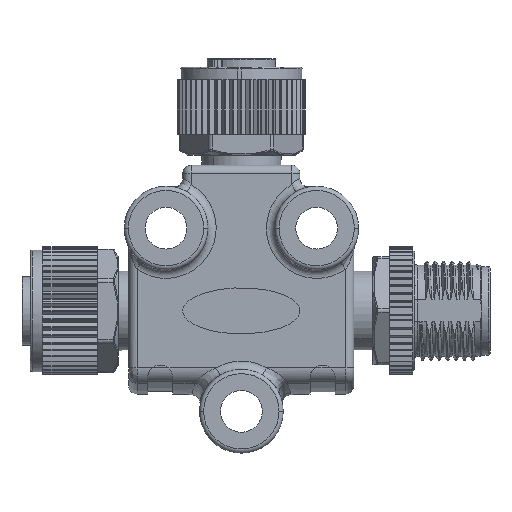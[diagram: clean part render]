
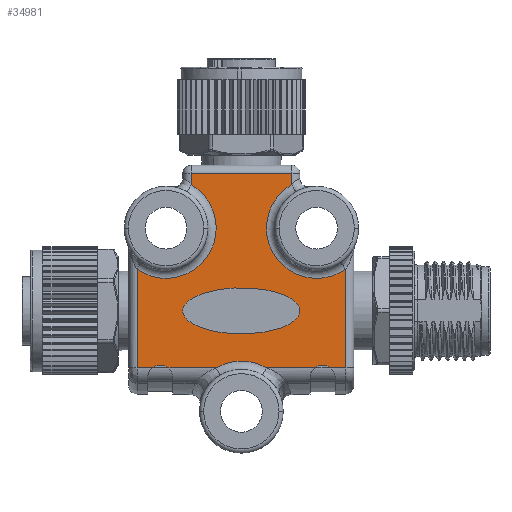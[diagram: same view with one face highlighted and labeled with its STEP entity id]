
A CAD part, front view. The second image highlights one B-rep face of the part: STEP entity #34981.
In plain terms, the highlighted planar face has unit normal (0, -1, 0).
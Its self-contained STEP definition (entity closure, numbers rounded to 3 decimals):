
#5995=CARTESIAN_POINT('',(12.45,-8.45,4.966));
#6086=CARTESIAN_POINT('',(8.762,-8.45,-6.805));
#6088=CARTESIAN_POINT('',(10.638,-8.45,-6.805));
#7022=CARTESIAN_POINT('',(9.,-8.45,9.875));
#7023=DIRECTION('',(0.,1.,0.));
#7024=DIRECTION('',(0.575,0.,-0.818));
#7025=AXIS2_PLACEMENT_3D('',#7022,#7023,#7024);
#7032=CARTESIAN_POINT('',(0.,-8.45,-12.));
#7033=DIRECTION('',(0.,1.,0.));
#7034=DIRECTION('',(-0.5,0.,0.866));
#7035=AXIS2_PLACEMENT_3D('',#7032,#7033,#7034);
#7037=CARTESIAN_POINT('',(-9.7,-8.45,-7.975));
#7038=DIRECTION('',(0.,-1.,0.));
#7039=DIRECTION('',(0.626,0.,0.78));
#7040=AXIS2_PLACEMENT_3D('',#7037,#7038,#7039);
#7042=DIRECTION('',(0.,0.,-1.));
#7043=VECTOR('',#7042,11.771);
#7044=CARTESIAN_POINT('',(-12.45,-8.45,4.966));
#7045=LINE('',#7044,#7043);
#7046=DIRECTION('',(0.,0.,-1.));
#7047=VECTOR('',#7046,1.329);
#7048=CARTESIAN_POINT('',(-6.,-8.45,16.4));
#7049=LINE('',#7048,#7047);
#7050=DIRECTION('',(-1.,0.,0.));
#7051=VECTOR('',#7050,12.);
#7052=CARTESIAN_POINT('',(6.,-8.45,16.4));
#7053=LINE('',#7052,#7051);
#7054=DIRECTION('',(0.,0.,1.));
#7055=VECTOR('',#7054,1.329);
#7056=CARTESIAN_POINT('',(6.,-8.45,15.071));
#7057=LINE('',#7056,#7055);
#7058=DIRECTION('',(0.,0.,1.));
#7059=VECTOR('',#7058,11.771);
#7060=CARTESIAN_POINT('',(12.45,-8.45,-6.805));
#7061=LINE('',#7060,#7059);
#7062=DIRECTION('',(-1.,0.,0.));
#7063=VECTOR('',#7062,1.812);
#7064=CARTESIAN_POINT('',(12.45,-8.45,-6.805));
#7065=LINE('',#7064,#7063);
#7066=CARTESIAN_POINT('',(9.7,-8.45,-7.975));
#7067=DIRECTION('',(0.,-1.,0.));
#7068=DIRECTION('',(0.626,0.,0.78));
#7069=AXIS2_PLACEMENT_3D('',#7066,#7067,#7068);
#7071=CARTESIAN_POINT('',(-7.,-8.45,0.));
#7072=CARTESIAN_POINT('',(-7.,-8.45,-0.162));
#7073=CARTESIAN_POINT('',(-6.927,-8.45,-0.498));
#7074=CARTESIAN_POINT('',(-6.555,-8.45,-1.015));
#7075=CARTESIAN_POINT('',(-5.903,-8.45,-1.514));
#7076=CARTESIAN_POINT('',(-4.986,-8.45,-1.959));
#7077=CARTESIAN_POINT('',(-4.042,-8.45,-2.259));
#7078=CARTESIAN_POINT('',(-3.219,-8.45,-2.447));
#7079=CARTESIAN_POINT('',(-2.579,-8.45,-2.561));
#7080=CARTESIAN_POINT('',(-1.926,-8.45,-2.648));
#7081=CARTESIAN_POINT('',(-1.381,-8.45,-2.698));
#7082=CARTESIAN_POINT('',(-0.949,-8.45,-2.726));
#7083=CARTESIAN_POINT('',(-0.628,-8.45,-2.74));
#7084=CARTESIAN_POINT('',(-0.364,-8.45,-2.747));
#7085=CARTESIAN_POINT('',(-0.155,-8.45,-2.75));
#7086=CARTESIAN_POINT('',(0.,-8.45,-2.75));
#7087=CARTESIAN_POINT('',(0.155,-8.45,-2.75));
#7088=CARTESIAN_POINT('',(0.364,-8.45,-2.747));
#7089=CARTESIAN_POINT('',(0.628,-8.45,-2.74));
#7090=CARTESIAN_POINT('',(0.949,-8.45,-2.726));
#7091=CARTESIAN_POINT('',(1.381,-8.45,-2.698));
#7092=CARTESIAN_POINT('',(1.926,-8.45,-2.648));
#7093=CARTESIAN_POINT('',(2.579,-8.45,-2.561));
#7094=CARTESIAN_POINT('',(3.219,-8.45,-2.447));
#7095=CARTESIAN_POINT('',(4.042,-8.45,-2.259));
#7096=CARTESIAN_POINT('',(4.986,-8.45,-1.959));
#7097=CARTESIAN_POINT('',(5.903,-8.45,-1.514));
#7098=CARTESIAN_POINT('',(6.555,-8.45,-1.015));
#7099=CARTESIAN_POINT('',(6.927,-8.45,-0.498));
#7100=CARTESIAN_POINT('',(7.,-8.45,-0.162));
#7101=CARTESIAN_POINT('',(7.,-8.45,0.));
#7103=CARTESIAN_POINT('',(7.,-8.45,0.));
#7104=CARTESIAN_POINT('',(7.,-8.45,0.162));
#7105=CARTESIAN_POINT('',(6.927,-8.45,0.498));
#7106=CARTESIAN_POINT('',(6.555,-8.45,1.015));
#7107=CARTESIAN_POINT('',(5.903,-8.45,1.514));
#7108=CARTESIAN_POINT('',(4.986,-8.45,1.959));
#7109=CARTESIAN_POINT('',(4.042,-8.45,2.259));
#7110=CARTESIAN_POINT('',(3.219,-8.45,2.447));
#7111=CARTESIAN_POINT('',(2.579,-8.45,2.561));
#7112=CARTESIAN_POINT('',(1.926,-8.45,2.648));
#7113=CARTESIAN_POINT('',(1.381,-8.45,2.698));
#7114=CARTESIAN_POINT('',(0.949,-8.45,2.726));
#7115=CARTESIAN_POINT('',(0.628,-8.45,2.74));
#7116=CARTESIAN_POINT('',(0.364,-8.45,2.747));
#7117=CARTESIAN_POINT('',(0.155,-8.45,2.75));
#7118=CARTESIAN_POINT('',(0.,-8.45,2.75));
#7119=CARTESIAN_POINT('',(-0.155,-8.45,2.75));
#7120=CARTESIAN_POINT('',(-0.364,-8.45,2.747));
#7121=CARTESIAN_POINT('',(-0.628,-8.45,2.74));
#7122=CARTESIAN_POINT('',(-0.949,-8.45,2.726));
#7123=CARTESIAN_POINT('',(-1.381,-8.45,2.698));
#7124=CARTESIAN_POINT('',(-1.926,-8.45,2.648));
#7125=CARTESIAN_POINT('',(-2.579,-8.45,2.561));
#7126=CARTESIAN_POINT('',(-3.219,-8.45,2.447));
#7127=CARTESIAN_POINT('',(-4.042,-8.45,2.259));
#7128=CARTESIAN_POINT('',(-4.986,-8.45,1.959));
#7129=CARTESIAN_POINT('',(-5.903,-8.45,1.514));
#7130=CARTESIAN_POINT('',(-6.555,-8.45,1.015));
#7131=CARTESIAN_POINT('',(-6.927,-8.45,0.498));
#7132=CARTESIAN_POINT('',(-7.,-8.45,0.162));
#7133=CARTESIAN_POINT('',(-7.,-8.45,0.));
#7171=DIRECTION('',(1.,0.,0.));
#7172=VECTOR('',#7171,5.76);
#7173=CARTESIAN_POINT('',(3.001,-8.45,-6.805));
#7174=LINE('',#7173,#7172);
#7248=CARTESIAN_POINT('',(-3.001,-8.45,-6.805));
#7255=DIRECTION('',(1.,0.,0.));
#7256=VECTOR('',#7255,5.76);
#7257=CARTESIAN_POINT('',(-8.762,-8.45,-6.805));
#7258=LINE('',#7257,#7256);
#7465=CARTESIAN_POINT('',(-10.638,-8.45,-6.805));
#7467=CARTESIAN_POINT('',(-8.762,-8.45,-6.805));
#7557=DIRECTION('',(1.,0.,0.));
#7558=VECTOR('',#7557,1.812);
#7559=CARTESIAN_POINT('',(-12.45,-8.45,-6.805));
#7560=LINE('',#7559,#7558);
#7848=CARTESIAN_POINT('',(6.,-8.45,15.071));
#7865=CARTESIAN_POINT('',(-6.,-8.45,15.071));
#7896=CARTESIAN_POINT('',(-9.,-8.45,9.875));
#7897=DIRECTION('',(0.,1.,0.));
#7898=DIRECTION('',(0.5,0.,0.866));
#7899=AXIS2_PLACEMENT_3D('',#7896,#7897,#7898);
#7940=CARTESIAN_POINT('',(-12.45,-8.45,4.966));
#22671=CARTESIAN_POINT('',(-12.45,-8.45,-6.805));
#22672=VERTEX_POINT('',#22671);
#22676=CARTESIAN_POINT('',(12.45,-8.45,-6.805));
#22678=VERTEX_POINT('',#22676);
#22695=CARTESIAN_POINT('',(6.,-8.45,16.4));
#22696=CARTESIAN_POINT('',(-6.,-8.45,16.4));
#22697=VERTEX_POINT('',#22695);
#22698=VERTEX_POINT('',#22696);
#22752=VERTEX_POINT('',#6086);
#22753=VERTEX_POINT('',#6088);
#22793=VERTEX_POINT('',#7467);
#22794=VERTEX_POINT('',#7465);
#22800=VERTEX_POINT('',#7248);
#22803=CARTESIAN_POINT('',(3.001,-8.45,-6.805));
#22804=VERTEX_POINT('',#22803);
#22832=VERTEX_POINT('',#7940);
#22838=VERTEX_POINT('',#7865);
#22842=VERTEX_POINT('',#7848);
#22849=VERTEX_POINT('',#5995);
#22915=VERTEX_POINT('',#7071);
#22916=VERTEX_POINT('',#7101);
#34944=CARTESIAN_POINT('',(0.,-8.45,0.));
#34945=DIRECTION('',(0.,1.,0.));
#34946=DIRECTION('',(1.,0.,0.));
#34947=AXIS2_PLACEMENT_3D('',#34944,#34945,#34946);
#34948=PLANE('',#34947);
#34950=ORIENTED_EDGE('',*,*,#34949,.F.);
#34952=ORIENTED_EDGE('',*,*,#34951,.F.);
#34954=ORIENTED_EDGE('',*,*,#34953,.T.);
#34956=ORIENTED_EDGE('',*,*,#34955,.F.);
#34958=ORIENTED_EDGE('',*,*,#34957,.F.);
#34960=ORIENTED_EDGE('',*,*,#34959,.F.);
#34962=ORIENTED_EDGE('',*,*,#34961,.F.);
#34964=ORIENTED_EDGE('',*,*,#34963,.F.);
#34966=ORIENTED_EDGE('',*,*,#34965,.F.);
#34967=ORIENTED_EDGE('',*,*,#34934,.F.);
#34968=ORIENTED_EDGE('',*,*,#33881,.F.);
#34969=ORIENTED_EDGE('',*,*,#33909,.T.);
#34970=ORIENTED_EDGE('',*,*,#33953,.T.);
#34972=ORIENTED_EDGE('',*,*,#34971,.F.);
#34973=EDGE_LOOP('',(#34950,#34952,#34954,#34956,#34958,#34960,#34962,#34964,
#34966,#34967,#34968,#34969,#34970,#34972));
#34974=FACE_OUTER_BOUND('',#34973,.F.);
#34976=ORIENTED_EDGE('',*,*,#34975,.T.);
#34978=ORIENTED_EDGE('',*,*,#34977,.T.);
#34979=EDGE_LOOP('',(#34976,#34978));
#34980=FACE_BOUND('',#34979,.F.);
#34981=ADVANCED_FACE('',(#34974,#34980),#34948,.F.);
#7026=CIRCLE('',#7025,6.);
#7036=CIRCLE('',#7035,6.);
#7041=CIRCLE('',#7040,1.5);
#7070=CIRCLE('',#7069,1.5);
#7102=B_SPLINE_CURVE_WITH_KNOTS('',3,(#7071,#7072,#7073,#7074,#7075,#7076,#7077,
#7078,#7079,#7080,#7081,#7082,#7083,#7084,#7085,#7086,#7087,#7088,#7089,#7090,
#7091,#7092,#7093,#7094,#7095,#7096,#7097,#7098,#7099,#7100,#7101),
.UNSPECIFIED.,.F.,.F.,(4,1,1,1,1,1,1,1,1,1,1,1,1,1,1,1,1,1,1,1,1,1,1,1,1,1,1,1,
4),(0.,0.063,0.125,0.188,0.25,0.313,0.344,0.375,0.406,
0.438,0.453,0.469,0.484,0.492,0.5,0.508,
0.516,0.531,0.547,0.563,0.594,0.625,0.656,0.688,
0.75,0.813,0.875,0.938,1.),.UNSPECIFIED.);
#7134=B_SPLINE_CURVE_WITH_KNOTS('',3,(#7103,#7104,#7105,#7106,#7107,#7108,#7109,
#7110,#7111,#7112,#7113,#7114,#7115,#7116,#7117,#7118,#7119,#7120,#7121,#7122,
#7123,#7124,#7125,#7126,#7127,#7128,#7129,#7130,#7131,#7132,#7133),
.UNSPECIFIED.,.F.,.F.,(4,1,1,1,1,1,1,1,1,1,1,1,1,1,1,1,1,1,1,1,1,1,1,1,1,1,1,1,
4),(0.,0.063,0.125,0.188,0.25,0.313,0.344,0.375,0.406,
0.438,0.453,0.469,0.484,0.492,0.5,0.508,
0.516,0.531,0.547,0.563,0.594,0.625,0.656,0.688,
0.75,0.813,0.875,0.938,1.),.UNSPECIFIED.);
#7900=CIRCLE('',#7899,6.);
#33881=EDGE_CURVE('',#22678,#22849,#7061,.T.);
#33909=EDGE_CURVE('',#22678,#22753,#7065,.T.);
#33953=EDGE_CURVE('',#22753,#22752,#7070,.T.);
#34934=EDGE_CURVE('',#22849,#22842,#7026,.T.);
#34949=EDGE_CURVE('',#22800,#22804,#7036,.T.);
#34951=EDGE_CURVE('',#22793,#22800,#7258,.T.);
#34953=EDGE_CURVE('',#22793,#22794,#7041,.T.);
#34955=EDGE_CURVE('',#22672,#22794,#7560,.T.);
#34957=EDGE_CURVE('',#22832,#22672,#7045,.T.);
#34959=EDGE_CURVE('',#22838,#22832,#7900,.T.);
#34961=EDGE_CURVE('',#22698,#22838,#7049,.T.);
#34963=EDGE_CURVE('',#22697,#22698,#7053,.T.);
#34965=EDGE_CURVE('',#22842,#22697,#7057,.T.);
#34971=EDGE_CURVE('',#22804,#22752,#7174,.T.);
#34975=EDGE_CURVE('',#22915,#22916,#7102,.T.);
#34977=EDGE_CURVE('',#22916,#22915,#7134,.T.);
